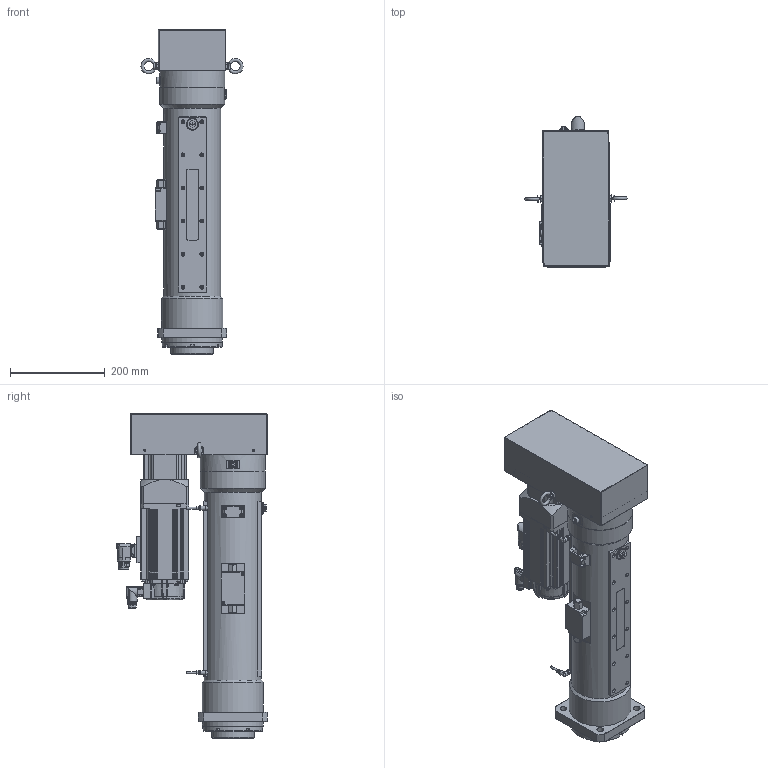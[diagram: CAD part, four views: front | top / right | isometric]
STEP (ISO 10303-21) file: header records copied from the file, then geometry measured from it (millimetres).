
FILE_DESCRIPTION(/* description */ (''),/* implementation_level */ '2;1');
FILE_NAME(/* name */ 'Z:\07.Product\01.Design\3D\1.P-All\OAICS-P\0000.Assembly\OACIS-P040-300-150-A6V400_v10.30.stp',/* time_stamp */ '2023-03-03T10:34:50+09:00',/* author */ ('magic'),/* organization */ (''),/* preprocessor_version */ 'ST-DEVELOPER v17',/* originating_system */ 'Autodesk Inventor 2019',/* authorisation */ '');
FILE_SCHEMA (('AUTOMOTIVE_DESIGN { 1 0 10303 214 3 1 1 }'));
Products named in the file (1): OACIS-P040-300-150-A6_v10.30
Bounding box: 215.9 x 318.1 x 686 mm (x, y, z)
Volume: 8360896.6 mm3; surface area: 1246837.6 mm2
Topology: 2 solids, 2 shells, 2812 faces, 7517 edges, 4972 vertices
Faces by surface type: plane 1309, cylinder 916, cone 278, bspline 168, torus 81, sphere 60
Full cylindrical faces by diameter (mm): 1 x6, 1.25 x12, 2.232 x6, 2.8 x1, 3.242 x42, 4.134 x4, 4.5 x38, 4.917 x13, 5 x2, 5.5 x9, 5.8 x2, 6 x8, 6.6 x4, 6.647 x20, 6.7 x2, 6.75 x4, 6.8 x1, 7 x12, 7.2 x2, 7.24 x2, 7.8 x2, 8 x42, 8.4 x1, 8.7 x1, 9 x20, 9.188 x1, 9.5 x4, 10 x2, 10.106 x8, 13.4 x1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
Entity records: 105036 total; most frequent: CARTESIAN_POINT 31061, DIRECTION 14969, ORIENTED_EDGE 14846, EDGE_CURVE 7423, AXIS2_PLACEMENT_3D 5634, VERTEX_POINT 4972, LINE 3701, VECTOR 3701
